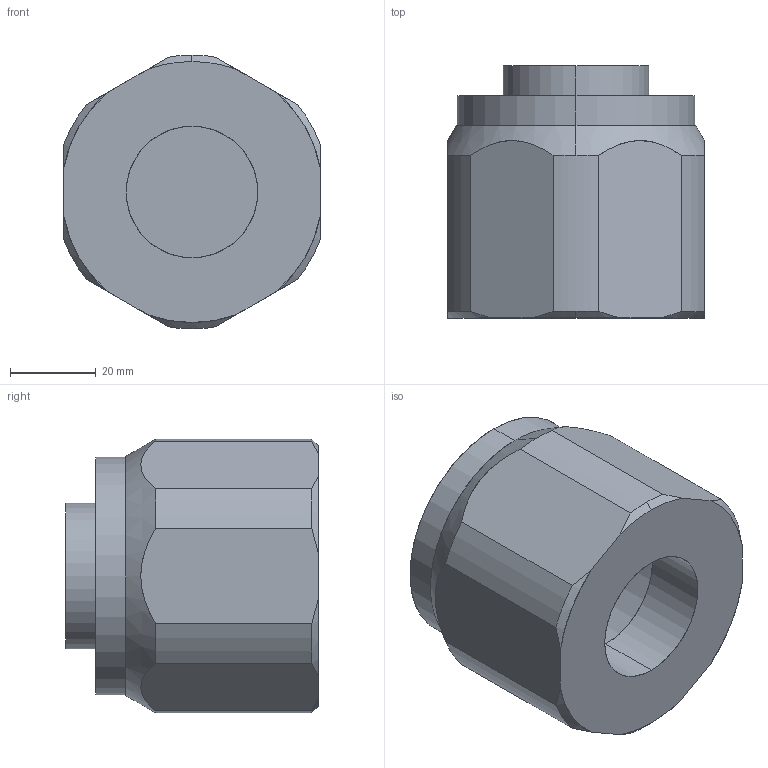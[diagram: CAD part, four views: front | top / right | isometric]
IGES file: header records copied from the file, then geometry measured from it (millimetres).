
Start section: SolidWorks IGES file using analytic representation for surfaces
Global section: file name: G:\Silvent\Ritningar\Övrigt\IGES\Silvent 730+C.IGS; native system: SolidWorks 2011; preprocessor: SolidWorks 2011; author: silvrati; date: 111209.092037; units: millimetre
Bounding box: 60 x 59 x 64 mm (x, y, z)
Surface area: 25488.6 mm2 (no closed solid volume)
Topology: 0 solids, 0 shells, 51 faces, 637 edges, 637 vertices
Faces by surface type: revolution 34, bspline 17
